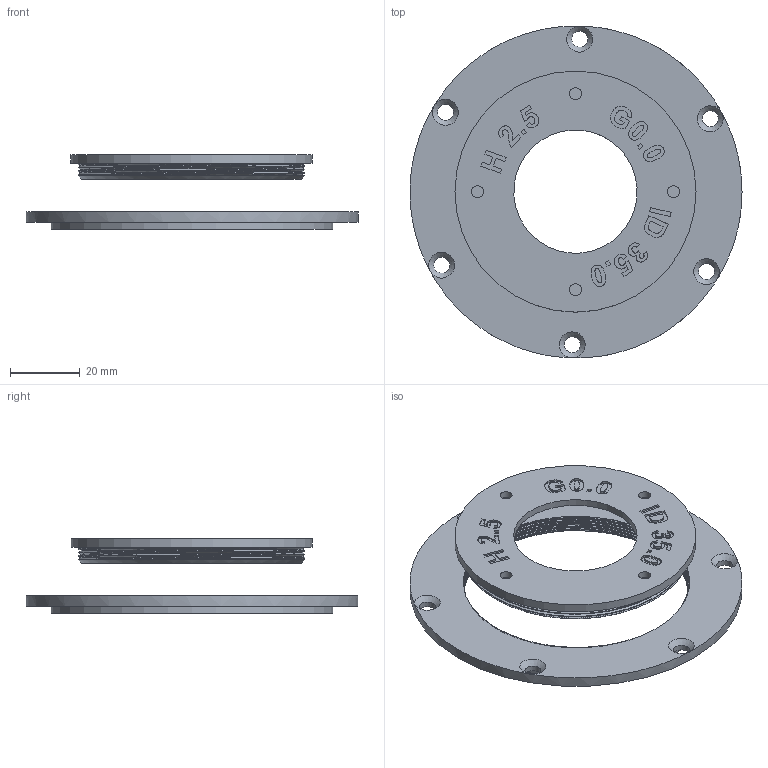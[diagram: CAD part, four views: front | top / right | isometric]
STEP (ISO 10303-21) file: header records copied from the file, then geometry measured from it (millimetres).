
FILE_DESCRIPTION(/* description */ (''),/* implementation_level */ '2;1');
FILE_NAME(/* name */ 'C:/Users/mcjor/Documents/3D objects/6x17 Camera/6x17/v8/threaded lens mount.stp',/* time_stamp */ '2024-03-31T22:40:13+02:00',/* author */ (''),/* organization */ (''),/* preprocessor_version */ 'ST-DEVELOPER v15.2',/* originating_system */ 'Autodesk Translator Framework v2.0.0.5431',/* authorisation */ '');
FILE_SCHEMA (('AUTOMOTIVE_DESIGN { 1 0 10303 214 3 1 1 }'));
Length unit declared in the file: centimetre
Products named in the file (1): (Unsaved)
Bounding box: 95 x 95 x 21.4 mm (x, y, z)
Volume: 26172.9 mm3; surface area: 18918.8 mm2
Topology: 2 solids, 2 shells, 286 faces, 796 edges, 539 vertices
Faces by surface type: bspline 168, plane 91, cylinder 19, cone 8
Full cylindrical faces by diameter (mm): 3.4 x4, 4.6 x6, 35.3 x1, 50 x1, 69 x1, 80.6 x1, 95 x1
Entity records: 11564 total; most frequent: CARTESIAN_POINT 5441, ORIENTED_EDGE 1544, EDGE_CURVE 772, DIRECTION 679, VERTEX_POINT 538, B_SPLINE_CURVE_WITH_KNOTS 378, EDGE_LOOP 350, LINE 347
